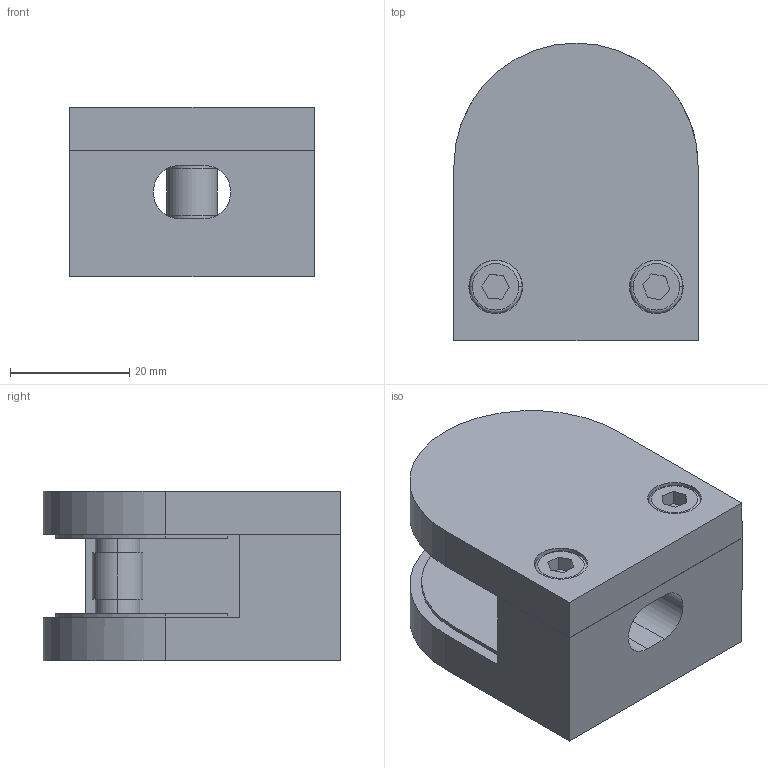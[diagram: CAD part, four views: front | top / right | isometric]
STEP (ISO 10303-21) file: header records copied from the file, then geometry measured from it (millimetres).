
FILE_DESCRIPTION (( 'STEP AP203' ), '1' );
FILE_NAME ('3D_GG4002_Flach x12.76_188758190.STEP', '2024-11-01T11:33:01', ( '' ), ( '' ), 'SwSTEP 2.0', 'SolidWorks 2023', '' );
FILE_SCHEMA (( 'CONFIG_CONTROL_DESIGN' ));
Length unit declared in the file: millimetre
Products named in the file (1): 3D_GG4002_Flach x12.76_188758190
Bounding box: 41 x 50 x 28.5 mm (x, y, z)
Volume: 38088.7 mm3; surface area: 19203.5 mm2
Topology: 7 solids, 7 shells, 117 faces, 259 edges, 170 vertices
Faces by surface type: plane 63, cylinder 46, torus 4, cone 4
Entity records: 3339 total; most frequent: DIRECTION 600, CARTESIAN_POINT 547, ORIENTED_EDGE 518, EDGE_CURVE 259, AXIS2_PLACEMENT_3D 223, VERTEX_POINT 170, LINE 154, VECTOR 154
